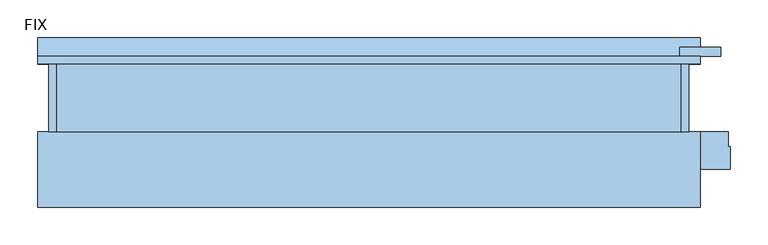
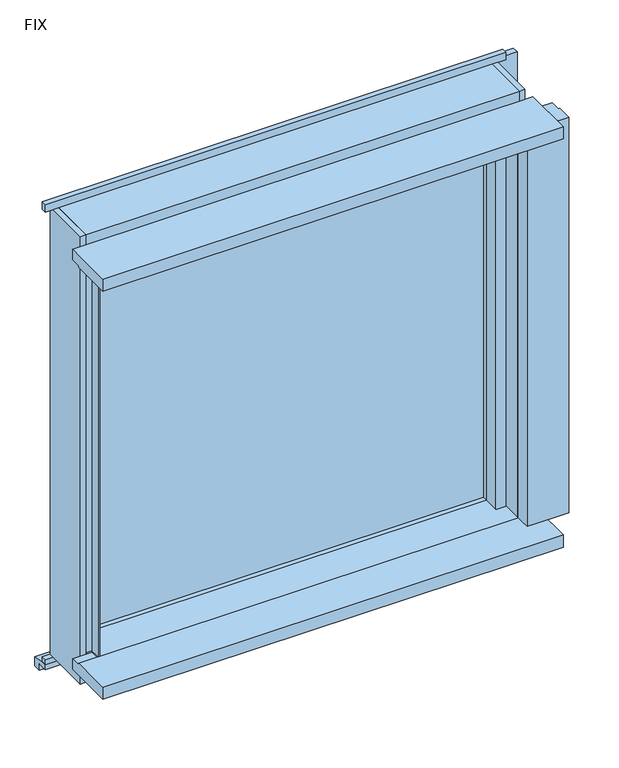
"""IFC4 building model written with IfcOpenShell, lengths in millimetres: window geometry, FNSⅡ100R_個別防火_ALC枠_単窓 : FIX."""

from ifc_helpers import new_model, si_unit, frame, origin, place, context, project, spatial, polyline, outline, extrude, faceted_brep, source, transform, mapped, element, save


def fix_b71f9117(model_context):
    return source(origin(), model_context, "Body", "SolidModel", [
        extrude(outline(polyline([(-380.0, 55.6), (380.0, 55.6), (380.0, 49.6), (-380.0, 49.6), (-380.0, 55.6)])), frame((0.0, 0.0, 900.0), z_axis=(0.0, 0.0, 1.0), x_axis=(1.0, 0.0, 0.0)), (0.0, 0.0, 1.0), 780.0),
        extrude(outline(polyline([(-380.0, 73.6), (380.0, 73.6), (380.0, 67.6), (-380.0, 67.6), (-380.0, 73.6)])), frame((0.0, 0.0, 900.0), z_axis=(0.0, 0.0, 1.0), x_axis=(1.0, 0.0, 0.0)), (0.0, 0.0, 1.0), 780.0),
        faceted_brep([(-380.0, 40.0, 1680.0), (-415.0, 40.0, 1680.0), (-415.0, 40.0, 900.0), (-380.0, 40.0, 900.0), (-380.0, 90.0, 1680.0), (-380.0, 90.0, 900.0), (-415.0, 90.0, 1745.0), (-415.0, -10.0, 1745.0), (-415.0, -10.0, 840.0), (-415.0, 90.0, 840.0), (-415.0, 90.0, 900.0), (-415.0, 90.0, 1680.0), (-425.0, 90.0, 1745.0), (-425.0, -10.0, 1745.0), (-425.0, 90.0, 840.0), (-425.0, -10.0, 840.0)], [[[0, 1, 2, 3]], [[4, 0, 3, 5]], [[6, 7, 8, 9, 10, 2, 1, 11]], [[5, 3, 2, 10]], [[12, 13, 7, 6]], [[14, 9, 8, 15]], [[13, 12, 14, 15]], [[7, 13, 15, 8]], [[12, 6, 11, 4, 5, 10, 9, 14]], [[4, 11, 1, 0]]]),
        faceted_brep([(380.0, 40.0, 1680.0), (380.0, 90.0, 1680.0), (380.0, 90.0, 900.0), (380.0, 40.0, 900.0), (415.0, 40.0, 1680.0), (415.0, 40.0, 900.0), (425.0, -10.0, 1745.0), (415.0, -10.0, 1745.0), (415.0, -10.0, 840.0), (425.0, -10.0, 840.0), (425.0, 90.0, 1745.0), (425.0, 90.0, 840.0), (415.0, 90.0, 900.0), (415.0, 90.0, 1745.0), (415.0, 90.0, 840.0), (415.0, 90.0, 1680.0)], [[[0, 1, 2, 3]], [[4, 0, 3, 5]], [[6, 7, 8, 9]], [[10, 6, 9, 11]], [[5, 3, 2, 12]], [[10, 13, 7, 6]], [[11, 9, 8, 14]], [[13, 10, 11, 14, 12, 2, 1, 15]], [[7, 13, 15, 4, 5, 12, 14, 8]], [[15, 1, 0, 4]]]),
        extrude(outline(polyline([(400.0, -30.0), (400.0, 8.5), (380.0, 8.5), (380.0, 40.0), (415.0, 40.0), (415.0, -10.0), (403.0, -10.0), (403.0, -30.0), (400.0, -30.0)])), frame((0.0, 0.0, 900.0), z_axis=(0.0, 0.0, 1.0), x_axis=(1.0, 0.0, 0.0)), (0.0, 0.0, 1.0), 800.0),
        extrude(outline(polyline([(-415.0, -10.0), (-415.0, 40.0), (-380.0, 40.0), (-380.0, 8.5), (-400.0, 8.5), (-400.0, -30.0), (-403.0, -30.0), (-403.0, -10.0), (-415.0, -10.0)])), frame((0.0, 0.0, 900.0), z_axis=(0.0, 0.0, 1.0), x_axis=(1.0, 0.0, 0.0)), (0.0, 0.0, 1.0), 800.0),
        extrude(outline(polyline([(-10.0, 884.0), (-10.0, 897.0), (-30.0, 897.0), (-30.0, 900.0), (40.0, 900.0), (40.0, 884.0), (-10.0, 884.0)])), frame((-403.0, 0.0, 0.0), z_axis=(1.0, 0.0, 0.0), x_axis=(0.0, 1.0, 0.0)), (0.0, 0.0, 1.0), 806.0),
        extrude(outline(polyline([(90.0, 840.0), (-10.0, 840.0), (-10.0, 884.0), (40.0, 884.0), (40.0, 900.0), (90.0, 900.0), (90.0, 870.0), (71.0, 870.0), (71.0, 850.0), (90.0, 850.0), (90.0, 840.0)])), frame((-415.0, 0.0, 0.0), z_axis=(1.0, 0.0, 0.0), x_axis=(0.0, 1.0, 0.0)), (0.0, 0.0, 1.0), 830.0),
        extrude(outline(polyline([(40.0, 1677.0), (6.0, 1677.0), (6.0, 1700.0), (-30.0, 1700.0), (-30.0, 1703.0), (-10.0, 1703.0), (-10.0, 1715.0), (40.0, 1715.0), (40.0, 1677.0)])), frame((-403.0, 0.0, 0.0), z_axis=(1.0, 0.0, 0.0), x_axis=(0.0, 1.0, 0.0)), (0.0, 0.0, 1.0), 806.0),
        extrude(outline(polyline([(90.0, 1680.0), (40.0, 1680.0), (40.0, 1715.0), (-10.0, 1715.0), (-10.0, 1745.0), (90.0, 1745.0), (90.0, 1680.0)])), frame((-415.0, 0.0, 0.0), z_axis=(1.0, 0.0, 0.0), x_axis=(0.0, 1.0, 0.0)), (0.0, 0.0, 1.0), 830.0),
        extrude(outline(polyline([(-110.0, 900.0), (-30.0, 900.0), (-30.0, 897.0), (-10.0, 897.0), (-10.0, 875.0), (-110.0, 875.0), (-110.0, 900.0)])), frame((-440.0, 0.0, 0.0), z_axis=(1.0, 0.0, 0.0), x_axis=(0.0, 1.0, 0.0)), (0.0, 0.0, 1.0), 880.0),
        extrude(outline(polyline([(-440.0, 80.0), (-440.0, 90.0), (440.0, 90.0), (440.0, 80.0), (-440.0, 80.0)])), frame((0.0, 0.0, 830.0), z_axis=(0.0, 0.0, 1.0), x_axis=(1.0, 0.0, 0.0)), (0.0, 0.0, 1.0), 10.0),
        extrude(outline(polyline([(100.0, 807.0), (100.0, 820.0), (80.0, 820.0), (80.0, 830.0), (90.0, 830.0), (115.0, 825.0), (115.0, 807.0), (100.0, 807.0)])), frame((-440.0, 0.0, 0.0), z_axis=(1.0, 0.0, 0.0), x_axis=(0.0, 1.0, 0.0)), (0.0, 0.0, 1.0), 880.0),
        extrude(outline(polyline([(403.0, -30.0), (403.0, -10.0), (477.0, -10.0), (477.0, -30.0), (480.0, -30.0), (480.0, -60.0), (400.0, -60.0), (400.0, -30.0), (403.0, -30.0)])), frame((0.0, 0.0, 900.0), z_axis=(0.0, 0.0, 1.0), x_axis=(1.0, 0.0, 0.0)), (0.0, 0.0, 1.0), 800.0),
        extrude(outline(polyline([(467.5, 90.0), (412.5, 90.0), (412.5, 102.0), (467.5, 102.0), (467.5, 90.0)])), frame((0.0, 0.0, 840.0), z_axis=(0.0, 0.0, 1.0), x_axis=(1.0, 0.0, 0.0)), (0.0, 0.0, 1.0), 905.0),
        extrude(outline(polyline([(-110.0, 1725.0), (-10.0, 1725.0), (-10.0, 1703.0), (-30.0, 1703.0), (-30.0, 1700.0), (-110.0, 1700.0), (-110.0, 1725.0)])), frame((-440.0, 0.0, 0.0), z_axis=(1.0, 0.0, 0.0), x_axis=(0.0, 1.0, 0.0)), (0.0, 0.0, 1.0), 880.0),
        extrude(outline(polyline([(-440.0, 80.0), (-440.0, 90.0), (440.0, 90.0), (440.0, 80.0), (-440.0, 80.0)])), frame((0.0, 0.0, 1745.0), z_axis=(0.0, 0.0, 1.0), x_axis=(1.0, 0.0, 0.0)), (0.0, 0.0, 1.0), 15.0),
    ])


if __name__ == "__main__":
    model = new_model("IFC4")
    model_context = context("Model", 3, world=origin())
    ifc_project = project(units=[si_unit("LENGTHUNIT", "METRE", prefix="MILLI")], contexts=[model_context])
    site = spatial("IfcSite", under=ifc_project)
    building = spatial("IfcBuilding", under=site)
    placement = place(None, origin())
    fix_shape = fix_b71f9117(model_context)
    element("IfcWindow", 1, ObjectType="FNSⅡ100R_個別防火_ALC枠_単窓 : FIX", at=placement, inside=building, context=model_context, shape_type="MappedRepresentation", body=[
        mapped(fix_shape, transform((0.0, 0.0, 0.0), x_axis=(1.0, 0.0, 0.0), y_axis=(0.0, 1.0, 0.0), z_axis=(0.0, 0.0, 1.0))),
    ])
    save(model, "model.ifc")
